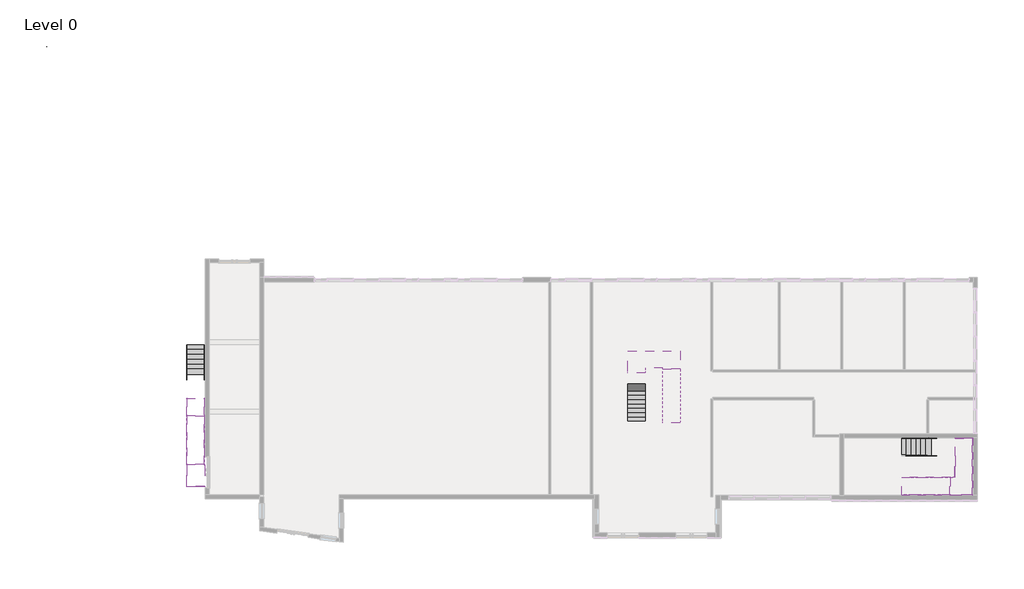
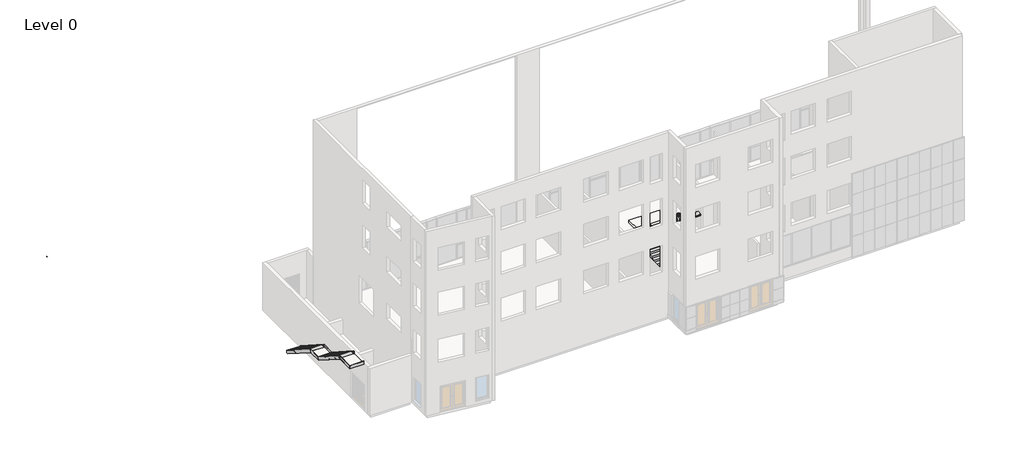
# One storey, part 10 of 10: 18 members, 6 stair flights, 4 slabs, 1 proxy.
"""IFC4 building model written with IfcOpenShell, lengths in millimetres."""

from ifc_helpers import new_model, si_unit, frame, origin, place, context, project, spatial, polyline, outline, extrude, faceted_brep, transform, mapped, element, save
from components import generic_models_533882bd, non_monolithic_landing_75a102ce, non_monolithic_landing_d436ff5b, non_monolithic_landing_0c23cef9, concrete_steps_w_40mm_tread_40mm_nosing_e4b1fbbb, concrete_steps_w_40mm_tread_40mm_nosing_7fead684, concrete_steps_w_40mm_tread_40mm_nosing_d8e39b1e, concrete_steps_w_40mm_tread_40mm_nosing_491d132e

model = new_model("IFC4")

# Units and contexts
model_context = context("Model", 3, world=origin())
ifc_project = project(units=[si_unit("LENGTHUNIT", "METRE", prefix="MILLI")], contexts=[model_context])

# Site, building, storey
site = spatial("IfcSite", under=ifc_project)
building = spatial("IfcBuilding", under=site)
storey = spatial("IfcBuildingStorey", under=building, Name="Level 0", Elevation=0.0)

# Proxy
placement = place(None, origin())
generic_models_shape = generic_models_533882bd(model_context)
element("IfcBuildingElementProxy", 1, Name="INDDoNotDelete : INDMetadata", ObjectType="INDDoNotDelete : INDMetadata", at=placement, inside=storey, context=model_context, shape_type="MappedRepresentation", body=[
    mapped(generic_models_shape, transform((-13921.3958122, 22575.0075711, 0.0), x_axis=(1.0, 0.0, 0.0), y_axis=(0.0, 1.0, 0.0), z_axis=(0.0, 0.0, 1.0))),
])

# Members
element("IfcMember", 2, ObjectType="Stringer-Paint-15mm_Width", at=placement, inside=storey, context=model_context, shape_type="SweptSolid", body=[
    extrude(outline(polyline([(201.3526553, 35285.7942367), (0.0, 35285.7942367), (0.0, 35435.0076771), (1899.2857143, 38413.0876771), (2149.2857143, 38340.1532731), (201.3526553, 35285.7942367)])), frame((0.0, 1.8025492, 0.0), z_axis=(0.0, 1.0, 0.0), x_axis=(0.0, 0.0, 1.0)), (0.0, 0.0, 1.0), 15.0),
])
element("IfcMember", 3, ObjectType="Stringer-Paint-15mm_Width", at=placement, inside=storey, context=model_context, shape_type="SweptSolid", body=[
    extrude(outline(polyline([(201.3526553, 35285.7942367), (0.0, 35285.7942367), (0.0, 35435.0076771), (1859.5577548, 38350.7942367), (2149.2857143, 38350.7942367), (2149.2857143, 38340.1532731), (201.3526553, 35285.7942367)])), frame((0.0, -1013.1974508, 0.0), z_axis=(0.0, 1.0, 0.0), x_axis=(0.0, 0.0, 1.0)), (0.0, 0.0, 1.0), 15.0),
])
element("IfcMember", 4, ObjectType="Stringer-Paint-15mm_Width", at=placement, inside=storey, context=model_context, shape_type="SweptSolid", body=[
    extrude(outline(polyline([(1899.2857143, 38049.0662528), (2149.2857143, 38122.0006568), (3951.3526553, 35296.3596932), (3654.8383671, 35296.3596932), (1899.2857143, 38049.0662528)])), frame((0.0, -3262.3476462, 0.0), z_axis=(0.0, 1.0, 0.0), x_axis=(0.0, 0.0, 1.0)), (0.0, 0.0, 1.0), 15.0),
])
element("IfcMember", 5, ObjectType="Stringer-Paint-15mm_Width", at=placement, inside=storey, context=model_context, shape_type="SweptSolid", body=[
    extrude(outline(polyline([(1899.2857143, 38049.0662528), (2149.2857143, 38122.0006568), (3951.3526553, 35296.3596932), (3654.8383671, 35296.3596932), (1899.2857143, 38049.0662528)])), frame((0.0, -2247.3476462, 0.0), z_axis=(0.0, 1.0, 0.0), x_axis=(0.0, 0.0, 1.0)), (0.0, 0.0, 1.0), 15.0),
])
element("IfcMember", 6, ObjectType="Stringer-Paint-15mm_Width", at=placement, inside=storey, context=model_context, shape_type="Brep", body=[
    faceted_brep([(38122.0006568, -3247.3476462, 2149.2857143), (38122.0006568, -3262.3476462, 2149.2857143), (39380.7942367, -3262.3476462, 2149.2857143), (39365.7942367, -3247.3476462, 2149.2857143), (38049.0662528, -3247.3476462, 1899.2857143), (39365.7942367, -3247.3476462, 1899.2857143), (38049.0662528, -3262.3476462, 1899.2857143), (39380.7942367, -3262.3476462, 1899.2857143)], [[[0, 1, 2, 3]], [[4, 0, 3, 5]], [[6, 4, 5, 7]], [[1, 6, 7, 2]], [[1, 0, 4, 6]], [[2, 7, 5, 3]]]),
])
element("IfcMember", 7, ObjectType="Stringer-Paint-15mm_Width", at=placement, inside=storey, context=model_context, shape_type="SweptSolid", body=[
    extrude(outline(polyline([(39380.7942367, -3262.3476462), (39365.7942367, -3247.3476462), (39365.7942367, 1.8025492), (39380.7942367, 16.8025492), (39380.7942367, -3262.3476462)])), frame((0.0, 0.0, 1899.2857143), z_axis=(0.0, 0.0, 1.0), x_axis=(1.0, 0.0, 0.0)), (0.0, 0.0, 1.0), 250.0),
])
element("IfcMember", 8, ObjectType="Stringer-Paint-15mm_Width", at=placement, inside=storey, context=model_context, shape_type="Brep", body=[
    faceted_brep([(39365.7942367, 1.8025492, 2149.2857143), (39380.7942367, 16.8025492, 2149.2857143), (38340.1532731, 16.8025492, 2149.2857143), (38340.1532731, 1.8025492, 2149.2857143), (39365.7942367, 1.8025492, 1899.2857143), (38413.0876771, 1.8025492, 1899.2857143), (39380.7942367, 16.8025492, 1899.2857143), (38413.0876771, 16.8025492, 1899.2857143)], [[[0, 1, 2, 3]], [[4, 0, 3, 5]], [[6, 4, 5, 7]], [[1, 6, 7, 2]], [[1, 0, 4, 6]], [[2, 7, 5, 3]]]),
])
element("IfcMember", 9, ObjectType="Stringer-Paint-15mm_Width", at=placement, inside=storey, context=model_context, shape_type="SweptSolid", body=[
    extrude(outline(polyline([(38350.7942367, -998.1974508), (38365.7942367, -998.1974508), (38365.7942367, -2247.3476462), (38350.7942367, -2232.3476462), (38350.7942367, -998.1974508)])), frame((0.0, 0.0, 1899.2857143), z_axis=(0.0, 0.0, 1.0), x_axis=(1.0, 0.0, 0.0)), (0.0, 0.0, 1.0), 250.0),
])
element("IfcMember", 10, ObjectType="Stringer-Paint-15mm_Width", at=placement, inside=storey, context=model_context, shape_type="Brep", body=[
    faceted_brep([(38365.7942367, -2247.3476462, 2149.2857143), (38350.7942367, -2232.3476462, 2149.2857143), (38122.0006568, -2232.3476462, 2149.2857143), (38122.0006568, -2247.3476462, 2149.2857143), (38365.7942367, -2247.3476462, 1899.2857143), (38049.0662528, -2247.3476462, 1899.2857143), (38350.7942367, -2232.3476462, 1899.2857143), (38049.0662528, -2232.3476462, 1899.2857143)], [[[0, 1, 2, 3]], [[4, 0, 3, 5]], [[6, 4, 5, 7]], [[1, 6, 7, 2]], [[1, 0, 4, 6]], [[2, 7, 5, 3]]]),
])
element("IfcMember", 11, ObjectType="Stringer-Paint-15mm_Width", at=placement, inside=storey, context=model_context, shape_type="SweptSolid", body=[
    extrude(outline(polyline([(5394.9946591, 201.3526553), (5394.9946591, 0.0), (5245.7812187, 0.0), (2267.7012187, 1899.2857143), (2340.6356227, 2149.2857143), (5394.9946591, 201.3526553)])), frame((-4849.2057633, 0.0, 0.0), z_axis=(1.0, 0.0, 0.0), x_axis=(0.0, 1.0, 0.0)), (0.0, 0.0, 1.0), 15.0),
])
element("IfcMember", 12, ObjectType="Stringer-Paint-15mm_Width", at=placement, inside=storey, context=model_context, shape_type="SweptSolid", body=[
    extrude(outline(polyline([(5394.9946591, 201.3526553), (5394.9946591, 0.0), (5245.7812187, 0.0), (2267.7012187, 1899.2857143), (2340.6356227, 2149.2857143), (5394.9946591, 201.3526553)])), frame((-5864.2057633, 0.0, 0.0), z_axis=(1.0, 0.0, 0.0), x_axis=(0.0, 1.0, 0.0)), (0.0, 0.0, 1.0), 15.0),
])
element("IfcMember", 13, ObjectType="Stringer-Paint-15mm_Width", at=placement, inside=storey, context=model_context, shape_type="SweptSolid", body=[
    extrude(outline(polyline([(1340.6356227, 2149.2857143), (1267.7012187, 1899.2857143), (-1532.2987813, 3685.0), (-1459.3643773, 3935.0), (1340.6356227, 2149.2857143)])), frame((-4849.2057633, 0.0, 0.0), z_axis=(1.0, 0.0, 0.0), x_axis=(0.0, 1.0, 0.0)), (0.0, 0.0, 1.0), 15.0),
])
element("IfcMember", 14, ObjectType="Stringer-Paint-15mm_Width", at=placement, inside=storey, context=model_context, shape_type="SweptSolid", body=[
    extrude(outline(polyline([(1340.6356227, 2149.2857143), (1267.7012187, 1899.2857143), (-1532.2987813, 3685.0), (-1459.3643773, 3935.0), (1340.6356227, 2149.2857143)])), frame((-5864.2057633, 0.0, 0.0), z_axis=(1.0, 0.0, 0.0), x_axis=(0.0, 1.0, 0.0)), (0.0, 0.0, 1.0), 15.0),
])
element("IfcMember", 15, ObjectType="Stringer-Paint-15mm_Width", at=placement, inside=storey, context=model_context, shape_type="SweptSolid", body=[
    extrude(outline(polyline([(1267.7012187, 1899.2857143), (1340.6356227, 2149.2857143), (2340.6356227, 2149.2857143), (2267.7012187, 1899.2857143), (1267.7012187, 1899.2857143)])), frame((-4849.2057633, 0.0, 0.0), z_axis=(1.0, 0.0, 0.0), x_axis=(0.0, 1.0, 0.0)), (0.0, 0.0, 1.0), 15.0),
])
element("IfcMember", 16, ObjectType="Stringer-Paint-15mm_Width", at=placement, inside=storey, context=model_context, shape_type="SweptSolid", body=[
    extrude(outline(polyline([(2340.6356227, 2149.2857143), (2267.7012187, 1899.2857143), (1267.7012187, 1899.2857143), (1340.6356227, 2149.2857143), (2340.6356227, 2149.2857143)])), frame((-5864.2057633, 0.0, 0.0), z_axis=(1.0, 0.0, 0.0), x_axis=(0.0, 1.0, 0.0)), (0.0, 0.0, 1.0), 15.0),
])
element("IfcMember", 17, ObjectType="Stringer-Paint-15mm_Width", at=placement, inside=storey, context=model_context, shape_type="Brep", body=[
    faceted_brep([(-5849.2057633, -1459.3643773, 3935.0), (-5864.2057633, -1459.3643773, 3935.0), (-5864.2057633, -2787.5053409, 3935.0), (-5849.2057633, -2772.5053409, 3935.0), (-5849.2057633, -1532.2987813, 3685.0), (-5849.2057633, -2772.5053409, 3685.0), (-5864.2057633, -1532.2987813, 3685.0), (-5864.2057633, -2787.5053409, 3685.0)], [[[0, 1, 2, 3]], [[4, 0, 3, 5]], [[6, 4, 5, 7]], [[1, 6, 7, 2]], [[1, 0, 4, 6]], [[2, 7, 5, 3]]]),
])
element("IfcMember", 18, ObjectType="Stringer-Paint-15mm_Width", at=placement, inside=storey, context=model_context, shape_type="SweptSolid", body=[
    extrude(outline(polyline([(-5864.2057633, -2787.5053409), (-5849.2057633, -2772.5053409), (-4816.9053759, -2772.5053409), (-4816.9053759, -2787.5053409), (-5864.2057633, -2787.5053409)])), frame((0.0, 0.0, 3685.0), z_axis=(0.0, 0.0, 1.0), x_axis=(1.0, 0.0, 0.0)), (0.0, 0.0, 1.0), 250.0),
])
element("IfcMember", 19, ObjectType="Stringer-Paint-15mm_Width", at=placement, inside=storey, context=model_context, shape_type="SweptSolid", body=[
    extrude(outline(polyline([(-4816.9053759, -1520.0053409), (-4816.9053759, -1535.0053409), (-4849.2057633, -1535.0053409), (-4834.2057633, -1520.0053409), (-4816.9053759, -1520.0053409)])), frame((0.0, 0.0, 3685.0), z_axis=(0.0, 0.0, 1.0), x_axis=(1.0, 0.0, 0.0)), (0.0, 0.0, 1.0), 250.0),
])

# Slabs
element("IfcSlab", 20, ObjectType="200mm Thickness - Concrete", at=placement, inside=storey, context=model_context, shape_type="SolidModel", body=[
    faceted_brep([(20543.2942367, 4048.9025486, 1792.4782609), (21543.2942367, 4048.9025486, 1792.4782609), (21543.2942367, 3999.3527269, 1792.4782609), (22543.2942367, 3999.3527269, 1792.4782609), (22543.2942367, 5048.9025486, 1792.4782609), (19543.2942367, 5048.9025486, 1792.4782609), (19543.2942367, 3859.3527269, 1792.4782609), (20543.2942367, 3859.3527269, 1792.4782609), (20543.2942367, 4048.9025486, 1592.4782609), (20543.2942367, 3859.3527269, 1682.4782609), (20543.2942367, 3759.3527269, 1682.4782609), (20543.2942367, 3759.3527269, 1592.4782609), (21543.2942367, 4048.9025486, 1592.4782609), (22543.2942367, 3999.3527269, 1592.4782609), (22543.2942367, 5048.9025486, 1592.4782609), (19543.2942367, 5048.9025486, 1592.4782609), (19543.2942367, 3759.3527269, 1592.4782609), (19543.2942367, 3759.3527269, 1682.4782609), (19543.2942367, 3859.3527269, 1682.4782609), (21543.2942367, 3999.3527269, 1592.4782609)], [[[0, 1, 2, 3, 4, 5, 6, 7]], [[8, 0, 7, 9, 10, 11]], [[1, 0, 8, 12]], [[4, 3, 13, 14]], [[5, 4, 14, 15]], [[5, 15, 16, 17, 18, 6]], [[12, 8, 11, 16, 15, 14, 13, 19]], [[17, 10, 9, 18]], [[18, 9, 7, 6]], [[10, 17, 16, 11]], [[2, 1, 12, 19]], [[3, 2, 19, 13]]]),
    extrude(outline(polyline([(19543.2942367, 3859.3527269), (19543.2942367, 5048.9025486), (22543.2942367, 5048.9025486), (22543.2942367, 3999.3527269), (21543.2942367, 3999.3527269), (21543.2942367, 4048.9025486), (20543.2942367, 4048.9025486), (20543.2942367, 3859.3527269), (19543.2942367, 3859.3527269)])), frame((0.0, 0.0, 1792.4782609), z_axis=(0.0, 0.0, 1.0), x_axis=(1.0, 0.0, 0.0)), (0.0, 0.0, 1.0), 1.0),
])
non_monolithic_landing_shape = non_monolithic_landing_75a102ce(model_context)
element("IfcSlab", 21, ObjectType="Non-Monolithic_Landing", at=placement, inside=storey, context=model_context, shape_type="MappedRepresentation", body=[
    mapped(non_monolithic_landing_shape, transform((0.0, 0.0, 0.0), x_axis=(1.0, 0.0, 0.0), y_axis=(0.0, 1.0, 0.0), z_axis=(0.0, 0.0, 1.0))),
])
non_monolithic_landing_2_shape = non_monolithic_landing_d436ff5b(model_context)
element("IfcSlab", 22, ObjectType="Non-Monolithic_Landing", at=placement, inside=storey, context=model_context, shape_type="MappedRepresentation", body=[
    mapped(non_monolithic_landing_2_shape, transform((0.0, 0.0, 0.0), x_axis=(1.0, 0.0, 0.0), y_axis=(0.0, 1.0, 0.0), z_axis=(0.0, 0.0, 1.0))),
])
non_monolithic_landing_3_shape = non_monolithic_landing_0c23cef9(model_context)
element("IfcSlab", 23, ObjectType="Non-Monolithic_Landing", at=placement, inside=storey, context=model_context, shape_type="MappedRepresentation", body=[
    mapped(non_monolithic_landing_3_shape, transform((0.0, 0.0, 0.0), x_axis=(1.0, 0.0, 0.0), y_axis=(0.0, 1.0, 0.0), z_axis=(0.0, 0.0, 1.0))),
])

# Stair flights
element("IfcStairFlight", 24, ObjectType="1mm Tread 170mm Structural Depth", at=placement, inside=storey, context=model_context, shape_type="SolidModel", body=[
    faceted_brep([(19543.2942367, 1249.3527269, 162.0434783), (19543.2942367, 999.3527269, 162.0434783), (20543.2942367, 999.3527269, 162.0434783), (20543.2942367, 1249.3527269, 162.0434783), (19543.2942367, 1249.3527269, 0.0), (19543.2942367, 999.3527269, 0.0), (20543.2942367, 999.3527269, 0.0), (20543.2942367, 1249.3527269, 0.0), (19543.2942367, 1499.3527269, 325.0869565), (19543.2942367, 1249.3527269, 325.0869565), (20543.2942367, 1249.3527269, 325.0869565), (20543.2942367, 1499.3527269, 325.0869565), (19543.2942367, 1499.3527269, 122.1286837), (19543.2942367, 1312.0887452, 0.0), (20543.2942367, 1312.0887452, 0.0), (20543.2942367, 1499.3527269, 122.1286837), (19543.2942367, 1749.3527269, 488.1304348), (19543.2942367, 1499.3527269, 488.1304348), (20543.2942367, 1499.3527269, 488.1304348), (20543.2942367, 1749.3527269, 488.1304348), (19543.2942367, 1749.3527269, 285.172162), (20543.2942367, 1749.3527269, 285.172162), (19543.2942367, 1999.3527269, 651.173913), (19543.2942367, 1749.3527269, 651.173913), (20543.2942367, 1749.3527269, 651.173913), (20543.2942367, 1999.3527269, 651.173913), (19543.2942367, 1999.3527269, 448.2156403), (20543.2942367, 1999.3527269, 448.2156403), (19543.2942367, 2249.3527269, 814.2173913), (19543.2942367, 1999.3527269, 814.2173913), (20543.2942367, 1999.3527269, 814.2173913), (20543.2942367, 2249.3527269, 814.2173913), (19543.2942367, 2249.3527269, 611.2591185), (20543.2942367, 2249.3527269, 611.2591185), (19543.2942367, 2499.3527269, 977.2608696), (19543.2942367, 2249.3527269, 977.2608696), (20543.2942367, 2249.3527269, 977.2608696), (20543.2942367, 2499.3527269, 977.2608696), (19543.2942367, 2499.3527269, 774.3025968), (20543.2942367, 2499.3527269, 774.3025968), (19543.2942367, 2749.3527269, 1140.3043478), (19543.2942367, 2499.3527269, 1140.3043478), (20543.2942367, 2499.3527269, 1140.3043478), (20543.2942367, 2749.3527269, 1140.3043478), (19543.2942367, 2749.3527269, 937.346075), (20543.2942367, 2749.3527269, 937.346075), (19543.2942367, 2999.3527269, 1303.3478261), (19543.2942367, 2749.3527269, 1303.3478261), (20543.2942367, 2749.3527269, 1303.3478261), (20543.2942367, 2999.3527269, 1303.3478261), (19543.2942367, 2999.3527269, 1100.3895533), (20543.2942367, 2999.3527269, 1100.3895533), (19543.2942367, 3249.3527269, 1466.3913043), (19543.2942367, 2999.3527269, 1466.3913043), (20543.2942367, 2999.3527269, 1466.3913043), (20543.2942367, 3249.3527269, 1466.3913043), (19543.2942367, 3249.3527269, 1263.4330316), (20543.2942367, 3249.3527269, 1263.4330316), (19543.2942367, 3499.3527269, 1629.4347826), (19543.2942367, 3249.3527269, 1629.4347826), (20543.2942367, 3249.3527269, 1629.4347826), (20543.2942367, 3499.3527269, 1629.4347826), (19543.2942367, 3499.3527269, 1426.4765098), (20543.2942367, 3499.3527269, 1426.4765098), (19543.2942367, 3499.3527269, 1792.4782609), (20543.2942367, 3499.3527269, 1792.4782609), (20543.2942367, 3849.3527269, 1792.4782609), (19543.2942367, 3849.3527269, 1792.4782609), (19543.2942367, 3849.3527269, 1692.4782609), (19543.2942367, 3749.3527269, 1692.4782609), (19543.2942367, 3749.3527269, 1589.5199881), (20543.2942367, 3749.3527269, 1589.5199881), (20543.2942367, 3749.3527269, 1692.4782609), (20543.2942367, 3849.3527269, 1692.4782609)], [[[0, 1, 2, 3]], [[1, 0, 4, 5]], [[2, 1, 5, 6]], [[3, 2, 6, 7]], [[8, 9, 10, 11]], [[4, 0, 9, 8, 12, 13]], [[0, 3, 10, 9]], [[3, 7, 14, 15, 11, 10]], [[16, 17, 18, 19]], [[17, 16, 20, 12, 8]], [[8, 11, 18, 17]], [[19, 18, 11, 15, 21]], [[22, 23, 24, 25]], [[23, 22, 26, 20, 16]], [[16, 19, 24, 23]], [[25, 24, 19, 21, 27]], [[28, 29, 30, 31]], [[29, 28, 32, 26, 22]], [[22, 25, 30, 29]], [[31, 30, 25, 27, 33]], [[34, 35, 36, 37]], [[35, 34, 38, 32, 28]], [[28, 31, 36, 35]], [[37, 36, 31, 33, 39]], [[40, 41, 42, 43]], [[41, 40, 44, 38, 34]], [[34, 37, 42, 41]], [[43, 42, 37, 39, 45]], [[46, 47, 48, 49]], [[47, 46, 50, 44, 40]], [[40, 43, 48, 47]], [[49, 48, 43, 45, 51]], [[52, 53, 54, 55]], [[53, 52, 56, 50, 46]], [[46, 49, 54, 53]], [[55, 54, 49, 51, 57]], [[58, 59, 60, 61]], [[59, 58, 62, 56, 52]], [[52, 55, 60, 59]], [[61, 60, 55, 57, 63]], [[64, 65, 66, 67]], [[64, 67, 68, 69, 70, 62, 58]], [[58, 61, 65, 64]], [[66, 65, 61, 63, 71, 72, 73]], [[71, 70, 69, 72]], [[5, 4, 13, 14, 7, 6]], [[14, 13, 12, 20, 26, 32, 38, 44, 50, 56, 62, 70, 71, 63, 57, 51, 45, 39, 33, 27, 21, 15]], [[73, 72, 69, 68]], [[73, 68, 67, 66]]]),
    extrude(outline(polyline([(19543.2942367, 1249.3527269), (20543.2942367, 1249.3527269), (20543.2942367, 999.3527269), (19543.2942367, 999.3527269), (19543.2942367, 1249.3527269)])), frame((0.0, 0.0, 162.0434783), z_axis=(0.0, 0.0, 1.0), x_axis=(1.0, 0.0, 0.0)), (0.0, 0.0, 1.0), 1.0),
    extrude(outline(polyline([(19543.2942367, 1499.3527269), (20543.2942367, 1499.3527269), (20543.2942367, 1249.3527269), (19543.2942367, 1249.3527269), (19543.2942367, 1499.3527269)])), frame((0.0, 0.0, 325.0869565), z_axis=(0.0, 0.0, 1.0), x_axis=(1.0, 0.0, 0.0)), (0.0, 0.0, 1.0), 1.0),
    extrude(outline(polyline([(19543.2942367, 1749.3527269), (20543.2942367, 1749.3527269), (20543.2942367, 1499.3527269), (19543.2942367, 1499.3527269), (19543.2942367, 1749.3527269)])), frame((0.0, 0.0, 488.1304348), z_axis=(0.0, 0.0, 1.0), x_axis=(1.0, 0.0, 0.0)), (0.0, 0.0, 1.0), 1.0),
    extrude(outline(polyline([(19543.2942367, 1999.3527269), (20543.2942367, 1999.3527269), (20543.2942367, 1749.3527269), (19543.2942367, 1749.3527269), (19543.2942367, 1999.3527269)])), frame((0.0, 0.0, 651.173913), z_axis=(0.0, 0.0, 1.0), x_axis=(1.0, 0.0, 0.0)), (0.0, 0.0, 1.0), 1.0),
    extrude(outline(polyline([(19543.2942367, 2249.3527269), (20543.2942367, 2249.3527269), (20543.2942367, 1999.3527269), (19543.2942367, 1999.3527269), (19543.2942367, 2249.3527269)])), frame((0.0, 0.0, 814.2173913), z_axis=(0.0, 0.0, 1.0), x_axis=(1.0, 0.0, 0.0)), (0.0, 0.0, 1.0), 1.0),
    extrude(outline(polyline([(19543.2942367, 2499.3527269), (20543.2942367, 2499.3527269), (20543.2942367, 2249.3527269), (19543.2942367, 2249.3527269), (19543.2942367, 2499.3527269)])), frame((0.0, 0.0, 977.2608696), z_axis=(0.0, 0.0, 1.0), x_axis=(1.0, 0.0, 0.0)), (0.0, 0.0, 1.0), 1.0),
    extrude(outline(polyline([(19543.2942367, 2749.3527269), (20543.2942367, 2749.3527269), (20543.2942367, 2499.3527269), (19543.2942367, 2499.3527269), (19543.2942367, 2749.3527269)])), frame((0.0, 0.0, 1140.3043478), z_axis=(0.0, 0.0, 1.0), x_axis=(1.0, 0.0, 0.0)), (0.0, 0.0, 1.0), 1.0),
    extrude(outline(polyline([(19543.2942367, 2999.3527269), (20543.2942367, 2999.3527269), (20543.2942367, 2749.3527269), (19543.2942367, 2749.3527269), (19543.2942367, 2999.3527269)])), frame((0.0, 0.0, 1303.3478261), z_axis=(0.0, 0.0, 1.0), x_axis=(1.0, 0.0, 0.0)), (0.0, 0.0, 1.0), 1.0),
    extrude(outline(polyline([(19543.2942367, 3249.3527269), (20543.2942367, 3249.3527269), (20543.2942367, 2999.3527269), (19543.2942367, 2999.3527269), (19543.2942367, 3249.3527269)])), frame((0.0, 0.0, 1466.3913043), z_axis=(0.0, 0.0, 1.0), x_axis=(1.0, 0.0, 0.0)), (0.0, 0.0, 1.0), 1.0),
    extrude(outline(polyline([(19543.2942367, 3499.3527269), (20543.2942367, 3499.3527269), (20543.2942367, 3249.3527269), (19543.2942367, 3249.3527269), (19543.2942367, 3499.3527269)])), frame((0.0, 0.0, 1629.4347826), z_axis=(0.0, 0.0, 1.0), x_axis=(1.0, 0.0, 0.0)), (0.0, 0.0, 1.0), 1.0),
    extrude(outline(polyline([(19543.2942367, 3849.3527269), (20543.2942367, 3849.3527269), (20543.2942367, 3749.3527269), (20543.2942367, 3499.3527269), (19543.2942367, 3499.3527269), (19543.2942367, 3749.3527269), (19543.2942367, 3849.3527269)])), frame((0.0, 0.0, 1792.4782609), z_axis=(0.0, 0.0, 1.0), x_axis=(1.0, 0.0, 0.0)), (0.0, 0.0, 1.0), 1.0),
])
element("IfcStairFlight", 25, ObjectType="1mm Tread 170mm Structural Depth", at=placement, inside=storey, context=model_context, shape_type="SolidModel", body=[
    faceted_brep([(22543.2942367, 3999.3527269, 1955.5217391), (21543.2942367, 3999.3527269, 1955.5217391), (21543.2942367, 3994.8167086, 1955.5217391), (21543.2942367, 3749.3527269, 1955.5217391), (22543.2942367, 3749.3527269, 1955.5217391), (22543.2942367, 3994.8167086, 1955.5217391), (22543.2942367, 3749.3527269, 1752.5634663), (22543.2942367, 3994.8167086, 1592.4782609), (22543.2942367, 3999.3527269, 1592.4782609), (21543.2942367, 3999.3527269, 1592.4782609), (21543.2942367, 3994.8167086, 1592.4782609), (21543.2942367, 3749.3527269, 1752.5634663), (22543.2942367, 3499.3527269, 2118.5652174), (22543.2942367, 3749.3527269, 2118.5652174), (21543.2942367, 3749.3527269, 2118.5652174), (21543.2942367, 3499.3527269, 2118.5652174), (22543.2942367, 3499.3527269, 1915.6069446), (21543.2942367, 3499.3527269, 1915.6069446), (22543.2942367, 3249.3527269, 2281.6086957), (22543.2942367, 3499.3527269, 2281.6086957), (21543.2942367, 3499.3527269, 2281.6086957), (21543.2942367, 3249.3527269, 2281.6086957), (22543.2942367, 3249.3527269, 2078.6504229), (21543.2942367, 3249.3527269, 2078.6504229), (22543.2942367, 2999.3527269, 2444.6521739), (22543.2942367, 3249.3527269, 2444.6521739), (21543.2942367, 3249.3527269, 2444.6521739), (21543.2942367, 2999.3527269, 2444.6521739), (22543.2942367, 2999.3527269, 2241.6939011), (21543.2942367, 2999.3527269, 2241.6939011), (22543.2942367, 2749.3527269, 2607.6956522), (22543.2942367, 2999.3527269, 2607.6956522), (21543.2942367, 2999.3527269, 2607.6956522), (21543.2942367, 2749.3527269, 2607.6956522), (22543.2942367, 2749.3527269, 2404.7373794), (21543.2942367, 2749.3527269, 2404.7373794), (22543.2942367, 2499.3527269, 2770.7391304), (22543.2942367, 2749.3527269, 2770.7391304), (21543.2942367, 2749.3527269, 2770.7391304), (21543.2942367, 2499.3527269, 2770.7391304), (22543.2942367, 2499.3527269, 2567.7808577), (21543.2942367, 2499.3527269, 2567.7808577), (22543.2942367, 2249.3527269, 2933.7826087), (22543.2942367, 2499.3527269, 2933.7826087), (21543.2942367, 2499.3527269, 2933.7826087), (21543.2942367, 2249.3527269, 2933.7826087), (22543.2942367, 2249.3527269, 2730.8243359), (21543.2942367, 2249.3527269, 2730.8243359), (22543.2942367, 1999.3527269, 3096.826087), (22543.2942367, 2249.3527269, 3096.826087), (21543.2942367, 2249.3527269, 3096.826087), (21543.2942367, 1999.3527269, 3096.826087), (22543.2942367, 1999.3527269, 2893.8678142), (21543.2942367, 1999.3527269, 2893.8678142), (22543.2942367, 1749.3527269, 3259.8695652), (22543.2942367, 1999.3527269, 3259.8695652), (21543.2942367, 1999.3527269, 3259.8695652), (21543.2942367, 1749.3527269, 3259.8695652), (22543.2942367, 1749.3527269, 3056.9112924), (21543.2942367, 1749.3527269, 3056.9112924), (22543.2942367, 1499.3527269, 3422.9130435), (22543.2942367, 1749.3527269, 3422.9130435), (21543.2942367, 1749.3527269, 3422.9130435), (21543.2942367, 1499.3527269, 3422.9130435), (22543.2942367, 1499.3527269, 3219.9547707), (21543.2942367, 1499.3527269, 3219.9547707), (22543.2942367, 1249.3527269, 3585.9565217), (22543.2942367, 1499.3527269, 3585.9565217), (21543.2942367, 1499.3527269, 3585.9565217), (21543.2942367, 1249.3527269, 3585.9565217), (22543.2942367, 1249.3527269, 3382.998249), (21543.2942367, 1249.3527269, 3382.998249), (22543.2942367, 1249.3527269, 3749.0), (21543.2942367, 1249.3527269, 3749.0), (21543.2942367, 899.3527269, 3749.0), (22543.2942367, 899.3527269, 3749.0), (22543.2942367, 899.3527269, 3649.0), (22543.2942367, 999.3527269, 3649.0), (22543.2942367, 999.3527269, 3546.0417272), (21543.2942367, 999.3527269, 3546.0417272), (21543.2942367, 999.3527269, 3649.0), (21543.2942367, 899.3527269, 3649.0)], [[[0, 1, 2, 3, 4, 5]], [[4, 6, 7, 8, 0, 5]], [[1, 0, 8, 9]], [[1, 9, 10, 11, 3, 2]], [[12, 13, 14, 15]], [[13, 12, 16, 6, 4]], [[14, 13, 4, 3]], [[15, 14, 3, 11, 17]], [[18, 19, 20, 21]], [[19, 18, 22, 16, 12]], [[20, 19, 12, 15]], [[21, 20, 15, 17, 23]], [[24, 25, 26, 27]], [[25, 24, 28, 22, 18]], [[26, 25, 18, 21]], [[27, 26, 21, 23, 29]], [[30, 31, 32, 33]], [[31, 30, 34, 28, 24]], [[32, 31, 24, 27]], [[33, 32, 27, 29, 35]], [[36, 37, 38, 39]], [[37, 36, 40, 34, 30]], [[38, 37, 30, 33]], [[39, 38, 33, 35, 41]], [[42, 43, 44, 45]], [[43, 42, 46, 40, 36]], [[44, 43, 36, 39]], [[45, 44, 39, 41, 47]], [[48, 49, 50, 51]], [[49, 48, 52, 46, 42]], [[50, 49, 42, 45]], [[51, 50, 45, 47, 53]], [[54, 55, 56, 57]], [[55, 54, 58, 52, 48]], [[56, 55, 48, 51]], [[57, 56, 51, 53, 59]], [[60, 61, 62, 63]], [[61, 60, 64, 58, 54]], [[62, 61, 54, 57]], [[63, 62, 57, 59, 65]], [[66, 67, 68, 69]], [[67, 66, 70, 64, 60]], [[68, 67, 60, 63]], [[69, 68, 63, 65, 71]], [[72, 73, 74, 75]], [[72, 75, 76, 77, 78, 70, 66]], [[73, 72, 66, 69]], [[74, 73, 69, 71, 79, 80, 81]], [[79, 78, 77, 80]], [[10, 7, 6, 16, 22, 28, 34, 40, 46, 52, 58, 64, 70, 78, 79, 71, 65, 59, 53, 47, 41, 35, 29, 23, 17, 11]], [[7, 10, 9, 8]], [[81, 80, 77, 76]], [[81, 76, 75, 74]]]),
    extrude(outline(polyline([(22543.2942367, 3749.3527269), (21543.2942367, 3749.3527269), (21543.2942367, 3999.3527269), (22543.2942367, 3999.3527269), (22543.2942367, 3749.3527269)])), frame((0.0, 0.0, 1955.5217391), z_axis=(0.0, 0.0, 1.0), x_axis=(1.0, 0.0, 0.0)), (0.0, 0.0, 1.0), 1.0),
    extrude(outline(polyline([(22543.2942367, 3499.3527269), (21543.2942367, 3499.3527269), (21543.2942367, 3749.3527269), (22543.2942367, 3749.3527269), (22543.2942367, 3499.3527269)])), frame((0.0, 0.0, 2118.5652174), z_axis=(0.0, 0.0, 1.0), x_axis=(1.0, 0.0, 0.0)), (0.0, 0.0, 1.0), 1.0),
    extrude(outline(polyline([(22543.2942367, 3249.3527269), (21543.2942367, 3249.3527269), (21543.2942367, 3499.3527269), (22543.2942367, 3499.3527269), (22543.2942367, 3249.3527269)])), frame((0.0, 0.0, 2281.6086957), z_axis=(0.0, 0.0, 1.0), x_axis=(1.0, 0.0, 0.0)), (0.0, 0.0, 1.0), 1.0),
    extrude(outline(polyline([(22543.2942367, 2999.3527269), (21543.2942367, 2999.3527269), (21543.2942367, 3249.3527269), (22543.2942367, 3249.3527269), (22543.2942367, 2999.3527269)])), frame((0.0, 0.0, 2444.6521739), z_axis=(0.0, 0.0, 1.0), x_axis=(1.0, 0.0, 0.0)), (0.0, 0.0, 1.0), 1.0),
    extrude(outline(polyline([(22543.2942367, 2749.3527269), (21543.2942367, 2749.3527269), (21543.2942367, 2999.3527269), (22543.2942367, 2999.3527269), (22543.2942367, 2749.3527269)])), frame((0.0, 0.0, 2607.6956522), z_axis=(0.0, 0.0, 1.0), x_axis=(1.0, 0.0, 0.0)), (0.0, 0.0, 1.0), 1.0),
    extrude(outline(polyline([(22543.2942367, 2499.3527269), (21543.2942367, 2499.3527269), (21543.2942367, 2749.3527269), (22543.2942367, 2749.3527269), (22543.2942367, 2499.3527269)])), frame((0.0, 0.0, 2770.7391304), z_axis=(0.0, 0.0, 1.0), x_axis=(1.0, 0.0, 0.0)), (0.0, 0.0, 1.0), 1.0),
    extrude(outline(polyline([(22543.2942367, 2249.3527269), (21543.2942367, 2249.3527269), (21543.2942367, 2499.3527269), (22543.2942367, 2499.3527269), (22543.2942367, 2249.3527269)])), frame((0.0, 0.0, 2933.7826087), z_axis=(0.0, 0.0, 1.0), x_axis=(1.0, 0.0, 0.0)), (0.0, 0.0, 1.0), 1.0),
    extrude(outline(polyline([(22543.2942367, 1999.3527269), (21543.2942367, 1999.3527269), (21543.2942367, 2249.3527269), (22543.2942367, 2249.3527269), (22543.2942367, 1999.3527269)])), frame((0.0, 0.0, 3096.826087), z_axis=(0.0, 0.0, 1.0), x_axis=(1.0, 0.0, 0.0)), (0.0, 0.0, 1.0), 1.0),
    extrude(outline(polyline([(22543.2942367, 1749.3527269), (21543.2942367, 1749.3527269), (21543.2942367, 1999.3527269), (22543.2942367, 1999.3527269), (22543.2942367, 1749.3527269)])), frame((0.0, 0.0, 3259.8695652), z_axis=(0.0, 0.0, 1.0), x_axis=(1.0, 0.0, 0.0)), (0.0, 0.0, 1.0), 1.0),
    extrude(outline(polyline([(22543.2942367, 1499.3527269), (21543.2942367, 1499.3527269), (21543.2942367, 1749.3527269), (22543.2942367, 1749.3527269), (22543.2942367, 1499.3527269)])), frame((0.0, 0.0, 3422.9130435), z_axis=(0.0, 0.0, 1.0), x_axis=(1.0, 0.0, 0.0)), (0.0, 0.0, 1.0), 1.0),
    extrude(outline(polyline([(22543.2942367, 1249.3527269), (21543.2942367, 1249.3527269), (21543.2942367, 1499.3527269), (22543.2942367, 1499.3527269), (22543.2942367, 1249.3527269)])), frame((0.0, 0.0, 3585.9565217), z_axis=(0.0, 0.0, 1.0), x_axis=(1.0, 0.0, 0.0)), (0.0, 0.0, 1.0), 1.0),
    extrude(outline(polyline([(22543.2942367, 899.3527269), (21543.2942367, 899.3527269), (21543.2942367, 1249.3527269), (22543.2942367, 1249.3527269), (22543.2942367, 899.3527269)])), frame((0.0, 0.0, 3749.0), z_axis=(0.0, 0.0, 1.0), x_axis=(1.0, 0.0, 0.0)), (0.0, 0.0, 1.0), 1.0),
])
concrete_steps_w_40mm_tread_40mm_nosing_shape = concrete_steps_w_40mm_tread_40mm_nosing_e4b1fbbb(model_context)
element("IfcStairFlight", 26, ObjectType="Concrete_Steps_w- 40mm_Tread-40mm_Nosing", at=placement, inside=storey, context=model_context, shape_type="MappedRepresentation", body=[
    mapped(concrete_steps_w_40mm_tread_40mm_nosing_shape, transform((0.0, 0.0, 0.0), x_axis=(1.0, 0.0, 0.0), y_axis=(0.0, 1.0, 0.0), z_axis=(0.0, 0.0, 1.0))),
])
concrete_steps_w_40mm_tread_40mm_nosing_2_shape = concrete_steps_w_40mm_tread_40mm_nosing_7fead684(model_context)
element("IfcStairFlight", 27, ObjectType="Concrete_Steps_w- 40mm_Tread-40mm_Nosing", at=placement, inside=storey, context=model_context, shape_type="MappedRepresentation", body=[
    mapped(concrete_steps_w_40mm_tread_40mm_nosing_2_shape, transform((0.0, 0.0, 0.0), x_axis=(1.0, 0.0, 0.0), y_axis=(0.0, 1.0, 0.0), z_axis=(0.0, 0.0, 1.0))),
])
concrete_steps_w_40mm_tread_40mm_nosing_3_shape = concrete_steps_w_40mm_tread_40mm_nosing_d8e39b1e(model_context)
element("IfcStairFlight", 28, ObjectType="Concrete_Steps_w- 40mm_Tread-40mm_Nosing", at=placement, inside=storey, context=model_context, shape_type="MappedRepresentation", body=[
    mapped(concrete_steps_w_40mm_tread_40mm_nosing_3_shape, transform((0.0, 0.0, 0.0), x_axis=(1.0, 0.0, 0.0), y_axis=(0.0, 1.0, 0.0), z_axis=(0.0, 0.0, 1.0))),
])
concrete_steps_w_40mm_tread_40mm_nosing_4_shape = concrete_steps_w_40mm_tread_40mm_nosing_491d132e(model_context)
element("IfcStairFlight", 29, ObjectType="Concrete_Steps_w- 40mm_Tread-40mm_Nosing", at=placement, inside=storey, context=model_context, shape_type="MappedRepresentation", body=[
    mapped(concrete_steps_w_40mm_tread_40mm_nosing_4_shape, transform((0.0, 0.0, 0.0), x_axis=(1.0, 0.0, 0.0), y_axis=(0.0, 1.0, 0.0), z_axis=(0.0, 0.0, 1.0))),
])

save(model, "model.ifc")
